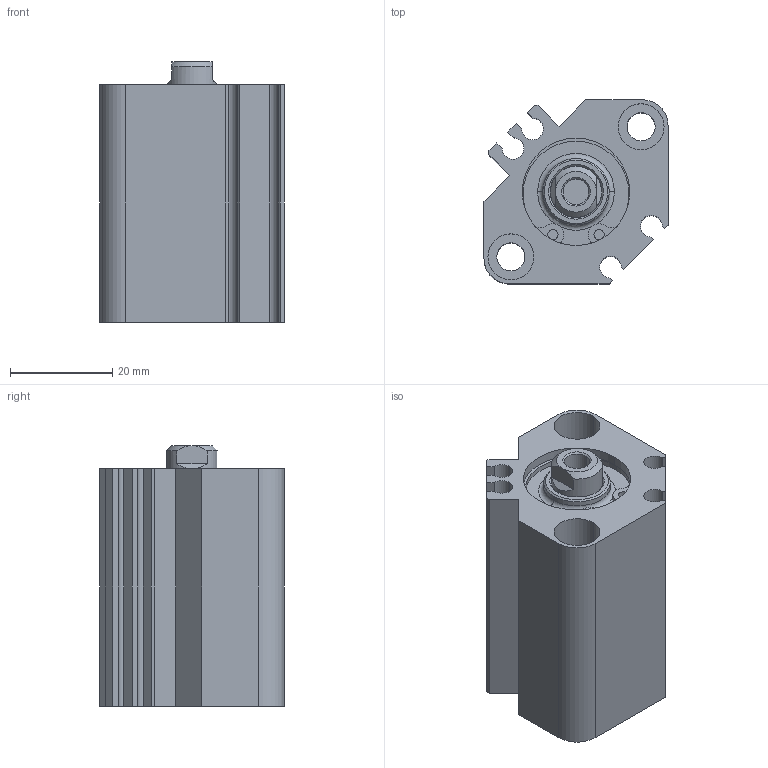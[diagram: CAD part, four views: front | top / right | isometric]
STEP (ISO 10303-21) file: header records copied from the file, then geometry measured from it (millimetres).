
FILE_DESCRIPTION (( 'STEP AP214' ), '1' );
FILE_NAME ('CDQ2B20-15DZ.step.step', '2021-07-24T22:42:21', ( '' ), ( '' ), 'SwSTEP 2.0', 'SolidWorks 2021', '' );
FILE_SCHEMA (( 'AUTOMOTIVE_DESIGN' ));
Length unit declared in the file: millimetre
Products named in the file (4): CDQ2B20-15DZ.step_CQ2Tube_20BD; CDQ2B20-15DZ.step_CQ2 SnapRing_20; CDQ2B20-15DZ.step_CQ22031Rods_20; CDQ2B20-15DZ.step
Assembly tree (3 placements, depth 2):
  CDQ2B20-15DZ.step
    CDQ2B20-15DZ.step_CQ2Tube_20BD
    CDQ2B20-15DZ.step_CQ22031Rods_20
    CDQ2B20-15DZ.step_CQ2 SnapRing_20
Bounding box: 36 x 36 x 51 mm (x, y, z)
Volume: 40004.1 mm3; surface area: 18391.2 mm2
Topology: 3 solids, 3 shells, 140 faces, 341 edges, 220 vertices
Faces by surface type: cylinder 71, plane 55, cone 12, torus 2
Entity records: 4893 total; most frequent: DIRECTION 779, CARTESIAN_POINT 753, ORIENTED_EDGE 674, EDGE_CURVE 337, AXIS2_PLACEMENT_3D 306, VERTEX_POINT 220, VECTOR 167, LINE 167
